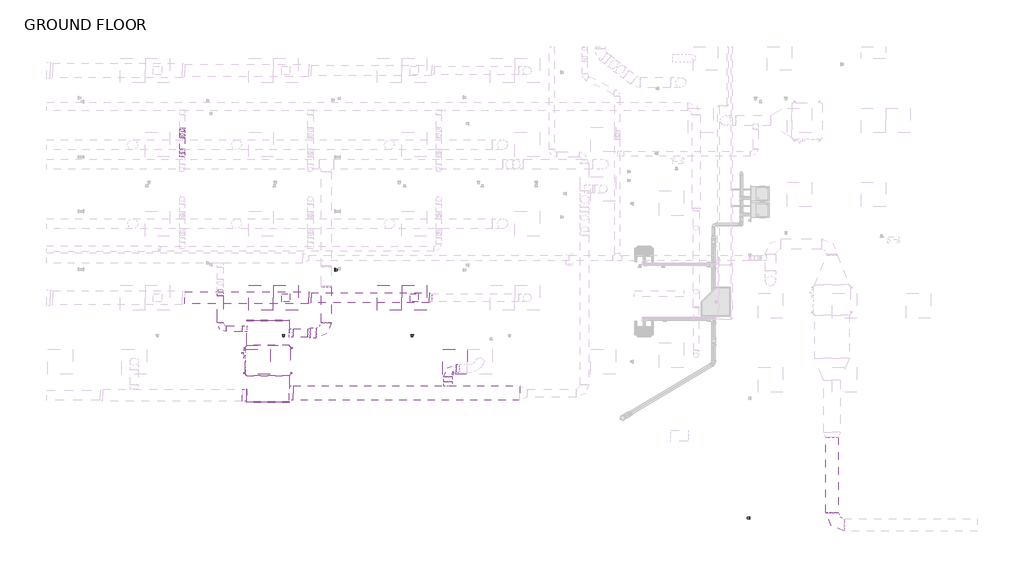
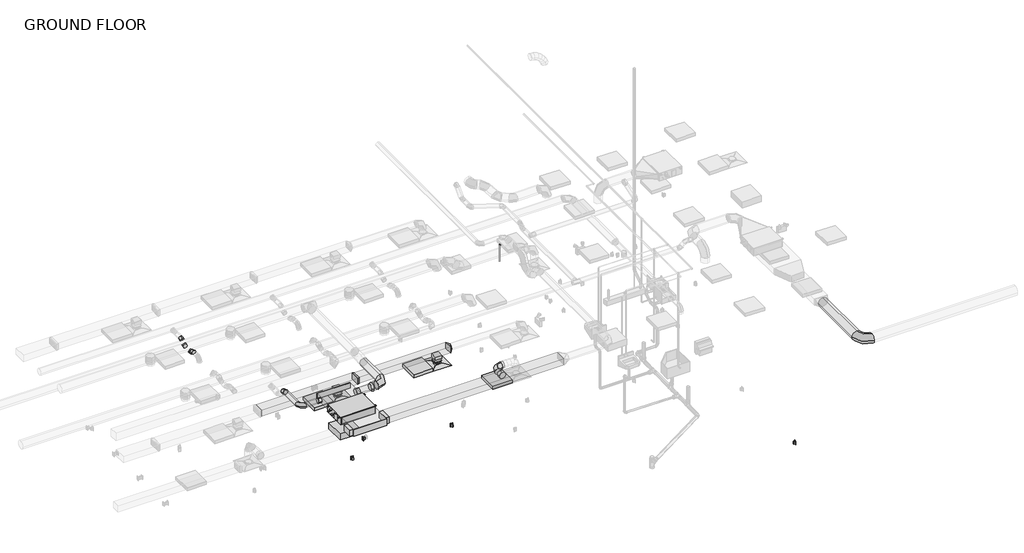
# One storey, part 4 of 22: 23 duct fittings, 17 duct segments, 4 light fixtures, 2 air terminals, 2 pipe segments, 2 proxies, 2 switching devices, 1 electric appliance, 1 pipe fitting.
"""IFC4 building model written with IfcOpenShell, lengths in millimetres."""

from ifc_helpers import new_model, si_unit, point, frame, frame_2d, origin, place, context, project, spatial, polyline, circle_curve, trimmed, segment, composite_curve, outline, extrude, transform, mapped, element, save
from components import air_terminal_e9020785, mechanical_equipment_d42a0ae8, duplex_receptacle_countertop_10251bba, rectangular_endcap_standard_76476d20, rectangular_endcap_standard_db7dad01, rectangular_takeoff_standard_806da19c, rectangular_takeoff_standard_78a7ba75, rectangular_takeoff_standard_d07ea574, rectangular_transition_angle_45_degree_1d311e81, rectangular_to_round_transition_angle_45_degree_e9430680, rectangular_to_round_transition_angle_45_degree_5a025447, round_elbow_1_d_a253342a, round_elbow_1_d_b37ad80b, round_elbow_1_d_6fec3262, round_elbow_1_d_281bc45b, round_elbow_1_d_9a27e954, round_elbow_1_d_538d8ec8, round_takeoff_standard_d3b0d0f9, round_takeoff_standard_1127d77f, round_takeoff_standard_bb6ed057, round_transition_angle_45_degree_6c335ea7, telephone_outlet_data_plain_18c24199, troffer_corner_insert_2x2_3_lamp_emergency_29e3a813, troffer_corner_insert_2x2_3lamp_e67c7f8f, elbow_generic_standard_a088f956

model = new_model("IFC4")

# Units and contexts
model_context = context("Model", 3, world=origin())
ifc_project = project(units=[si_unit("LENGTHUNIT", "METRE", prefix="MILLI")], contexts=[model_context])

# Site, building, storey
site = spatial("IfcSite", under=ifc_project)
building = spatial("IfcBuilding", under=site)
storey = spatial("IfcBuildingStorey", under=building, Name="GROUND FLOOR", Elevation=30480.0)

# Air terminals
placement = place(None, origin())
air_terminal_shape = air_terminal_e9020785(model_context)
element("IfcAirTerminal", 1, ObjectType="Supply Diffuser - Rectangular Face Round Neck - Hosted : 24\"x24\" Face 8\" Neck - Hosted", at=placement, inside=storey, context=model_context, shape_type="MappedRepresentation", body=[
    mapped(air_terminal_shape, transform((2372.6795393, -4228.1054995, 33223.2), x_axis=(0.0, -1.0, 0.0), y_axis=(-1.0, 0.0, 0.0), z_axis=(0.0, 0.0, -1.0))),
])
element("IfcAirTerminal", 2, ObjectType="Supply Diffuser - Rectangular Face Round Neck - Hosted : 24\"x24\" Face 8\" Neck - Hosted", at=placement, inside=storey, context=model_context, shape_type="MappedRepresentation", body=[
    mapped(air_terminal_shape, transform((5544.5045393, -4228.1054995, 33223.2), x_axis=(0.0, -1.0, 0.0), y_axis=(-1.0, 0.0, 0.0), z_axis=(0.0, 0.0, -1.0))),
])

# Proxies
mechanical_equipment_shape = mechanical_equipment_d42a0ae8(model_context)
element("IfcBuildingElementProxy", 3, Name="PEFY-P-NMAU-E_Medium_Static_Ducted : PEFY-P30NMAU-E", ObjectType="PEFY-P-NMAU-E_Medium_Static_Ducted : PEFY-P30NMAU-E", at=placement, inside=storey, context=model_context, shape_type="MappedRepresentation", body=[
    mapped(mechanical_equipment_shape, transform((1920.9522105, -5724.0600038, 33731.2), x_axis=(-1.0, 0.0, 0.0), y_axis=(0.0, -1.0, 0.0), z_axis=(0.0, 0.0, 1.0))),
])
duplex_receptacle_countertop_shape = duplex_receptacle_countertop_10251bba(model_context)
element("IfcBuildingElementProxy", 4, Name="Duplex Receptacle : Standard", ObjectType="Duplex Receptacle : Standard", at=placement, inside=storey, context=model_context, shape_type="MappedRepresentation", body=[
    mapped(duplex_receptacle_countertop_shape, transform((13828.0795393, -9667.2112489, 30937.2), x_axis=(0.0, 1.0, 0.0), y_axis=(0.0, 0.0, 1.0), z_axis=(1.0, 0.0, 0.0))),
])

# Duct fittings
rectangular_endcap_standard_shape = rectangular_endcap_standard_76476d20(model_context)
element("IfcDuctFitting", 5, ObjectType="Rectangular Endcap : Standard", at=placement, inside=storey, context=model_context, shape_type="MappedRepresentation", body=[
    mapped(rectangular_endcap_standard_shape, transform((1930.9644534, -4796.9600038, 33890.74375), x_axis=(0.0, 1.0, 0.0), y_axis=(-1.0, 0.0, 0.0), z_axis=(0.0, 0.0, 1.0))),
])
rectangular_endcap_standard_2_shape = rectangular_endcap_standard_db7dad01(model_context)
element("IfcDuctFitting", 6, ObjectType="Rectangular Endcap : Standard", at=placement, inside=storey, context=model_context, shape_type="MappedRepresentation", body=[
    mapped(rectangular_endcap_standard_2_shape, transform((1930.9644534, -6797.459162, 33877.25), x_axis=(0.0, -1.0, 0.0), y_axis=(0.0, 0.0, -1.0000000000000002), z_axis=(1.0000000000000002, 0.0, 0.0))),
])
rectangular_takeoff_standard_shape = rectangular_takeoff_standard_806da19c(model_context)
element("IfcDuctFitting", 7, ObjectType="Rectangular Takeoff : Standard", at=placement, inside=storey, context=model_context, shape_type="MappedRepresentation", body=[
    mapped(rectangular_takeoff_standard_shape, transform((2458.8082034, -6584.4850038, 33877.25), x_axis=(1.0, 0.0, 0.0), y_axis=(0.0, -1.0, 0.0), z_axis=(0.0, 0.0, -1.0))),
])
rectangular_takeoff_standard_2_shape = rectangular_takeoff_standard_78a7ba75(model_context)
element("IfcDuctFitting", 8, ObjectType="Rectangular Takeoff : Standard", at=placement, inside=storey, context=model_context, shape_type="MappedRepresentation", body=[
    mapped(rectangular_takeoff_standard_2_shape, transform((1403.1207034, -6635.2850038, 33877.25), x_axis=(-1.0, 0.0, 0.0), y_axis=(0.0, 1.0, 0.0), z_axis=(0.0, 0.0, -1.0))),
])
rectangular_takeoff_standard_3_shape = rectangular_takeoff_standard_d07ea574(model_context)
element("IfcDuctFitting", 9, ObjectType="Rectangular Takeoff : Standard", at=placement, inside=storey, context=model_context, shape_type="MappedRepresentation", body=[
    mapped(rectangular_takeoff_standard_3_shape, transform((5544.5045393, -4228.1054995, 33502.6), x_axis=(0.0, 0.0, -1.0), y_axis=(1.0, 0.0, 0.0), z_axis=(0.0, -1.0, 0.0))),
])
element("IfcDuctFitting", 10, ObjectType="Rectangular Takeoff : Standard", at=placement, inside=storey, context=model_context, shape_type="MappedRepresentation", body=[
    mapped(rectangular_takeoff_standard_3_shape, transform((2372.6795393, -4228.1054995, 33502.6), x_axis=(0.0, 0.0, -1.0), y_axis=(1.0, 0.0, 0.0), z_axis=(0.0, -1.0, 0.0))),
])
rectangular_transition_angle_45_degree_shape = rectangular_transition_angle_45_degree_1d311e81(model_context)
element("IfcDuctFitting", 11, ObjectType="Rectangular Transition - Angle : 45 Degree", at=placement, inside=storey, context=model_context, shape_type="MappedRepresentation", body=[
    mapped(rectangular_transition_angle_45_degree_shape, transform((2934.6545393, -4228.1054995, 33604.2), x_axis=(1.0, 0.0, 0.0), y_axis=(0.0, 1.0, 0.0), z_axis=(0.0, 0.0, 1.0))),
])
rectangular_to_round_transition_angle_45_degree_shape = rectangular_to_round_transition_angle_45_degree_e9430680(model_context)
element("IfcDuctFitting", 12, ObjectType="Rectangular to Round Transition - Angle : 45 Degree", at=placement, inside=storey, context=model_context, shape_type="MappedRepresentation", body=[
    mapped(rectangular_to_round_transition_angle_45_degree_shape, transform((5910.8124903, -4228.1054995, 33604.2), x_axis=(1.0, 0.0, 0.0), y_axis=(0.0, 1.0, 0.0), z_axis=(0.0, 0.0, 1.0))),
])
rectangular_to_round_transition_angle_45_degree_2_shape = rectangular_to_round_transition_angle_45_degree_5a025447(model_context)
element("IfcDuctFitting", 13, ObjectType="Rectangular to Round Transition - Angle : 45 Degree", at=placement, inside=storey, context=model_context, shape_type="MappedRepresentation", body=[
    mapped(rectangular_to_round_transition_angle_45_degree_2_shape, transform((5544.5045393, -4228.1054995, 33327.975), x_axis=(0.0, 0.0, -1.0), y_axis=(1.0, 0.0, 0.0), z_axis=(0.0, -1.0, 0.0))),
])
element("IfcDuctFitting", 14, ObjectType="Rectangular to Round Transition - Angle : 45 Degree", at=placement, inside=storey, context=model_context, shape_type="MappedRepresentation", body=[
    mapped(rectangular_to_round_transition_angle_45_degree_2_shape, transform((2372.6795393, -4228.1054995, 33327.975), x_axis=(0.0, 0.0, -1.0), y_axis=(1.0, 0.0, 0.0), z_axis=(0.0, -1.0, 0.0))),
])
round_elbow_1_d_shape = round_elbow_1_d_a253342a(model_context)
element("IfcDuctFitting", 15, ObjectType="Round Elbow : 1 D", at=placement, inside=storey, context=model_context, shape_type="MappedRepresentation", body=[
    mapped(round_elbow_1_d_shape, transform((6377.6154749, -5974.8850038, 33832.8), x_axis=(-1.0, 0.0, 0.0), y_axis=(0.0, -1.0, 0.0), z_axis=(0.0, 0.0, 1.0))),
])
round_elbow_1_d_2_shape = round_elbow_1_d_b37ad80b(model_context)
element("IfcDuctFitting", 16, ObjectType="Round Elbow : 1 D", at=placement, inside=storey, context=model_context, shape_type="MappedRepresentation", body=[
    mapped(round_elbow_1_d_2_shape, transform((752.8182219, -4998.2216457, 33890.74375), x_axis=(0.0, -1.0, 0.0), y_axis=(1.0, 0.0, 0.0), z_axis=(0.0, 0.0, 1.0))),
])
round_elbow_1_d_3_shape = round_elbow_1_d_6fec3262(model_context)
element("IfcDuctFitting", 17, ObjectType="Round Elbow : 1 D", at=placement, inside=storey, context=model_context, shape_type="MappedRepresentation", body=[
    mapped(round_elbow_1_d_3_shape, transform((3373.2082034, -5101.7600038, 33846.29375), x_axis=(1.0, 0.0, 0.0), y_axis=(0.0, 1.0, 0.0), z_axis=(0.0, 0.0, 1.0))),
])
round_elbow_1_d_4_shape = round_elbow_1_d_281bc45b(model_context)
element("IfcDuctFitting", 18, ObjectType="Round Elbow : 1 D", at=placement, inside=storey, context=model_context, shape_type="MappedRepresentation", body=[
    mapped(round_elbow_1_d_4_shape, transform((15866.7105962, -9838.464426, 33750.25), x_axis=(0.0, -1.0, 0.0), y_axis=(1.0, 0.0, 0.0), z_axis=(0.0, 0.0, 1.0))),
])
round_elbow_1_d_5_shape = round_elbow_1_d_9a27e954(model_context)
element("IfcDuctFitting", 19, ObjectType="Round Elbow : 1 D", at=placement, inside=storey, context=model_context, shape_type="MappedRepresentation", body=[
    mapped(round_elbow_1_d_5_shape, transform((752.8182219, -4118.4511555, 33890.74375), x_axis=(0.0, -0.707106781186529, 0.707106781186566), y_axis=(0.0, -0.707106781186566, -0.707106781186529), z_axis=(1.0, 0.0, 0.0))),
])
round_elbow_1_d_6_shape = round_elbow_1_d_538d8ec8(model_context)
element("IfcDuctFitting", 20, ObjectType="Round Elbow : 1 D", at=placement, inside=storey, context=model_context, shape_type="MappedRepresentation", body=[
    mapped(round_elbow_1_d_6_shape, transform((-189.5454607, -703.4357216, 33477.2), x_axis=(0.0, 1.0, 0.0), y_axis=(0.0, 0.0, -1.0), z_axis=(-1.0, 0.0, 0.0))),
])
element("IfcDuctFitting", 21, ObjectType="Round Elbow : 1 D", at=placement, inside=storey, context=model_context, shape_type="MappedRepresentation", body=[
    mapped(round_elbow_1_d_6_shape, transform((-189.5454607, -599.403412, 33404.3557926), x_axis=(0.0, 0.8191520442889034, -0.5735764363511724), y_axis=(0.0, 0.5735764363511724, 0.8191520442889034), z_axis=(1.0, 0.0, 0.0))),
])
element("IfcDuctFitting", 22, ObjectType="Round Elbow : 1 D", at=placement, inside=storey, context=model_context, shape_type="MappedRepresentation", body=[
    mapped(round_elbow_1_d_6_shape, transform((-189.5454607, -240.3054995, 33404.3557926), x_axis=(0.0, 1.0, 0.0), y_axis=(0.0, 0.0, 1.0), z_axis=(1.0, 0.0, 0.0))),
])
element("IfcDuctFitting", 23, ObjectType="Round Elbow : 1 D", at=placement, inside=storey, context=model_context, shape_type="MappedRepresentation", body=[
    mapped(round_elbow_1_d_6_shape, transform((-189.5454607, -63.7232711, 33528.0), x_axis=(0.0, 0.8191520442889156, 0.5735764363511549), y_axis=(0.0, 0.5735764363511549, -0.8191520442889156), z_axis=(-1.0, 0.0, 0.0))),
])
round_takeoff_standard_shape = round_takeoff_standard_d3b0d0f9(model_context)
element("IfcDuctFitting", 24, ObjectType="Round Takeoff : Standard", at=placement, inside=storey, context=model_context, shape_type="MappedRepresentation", body=[
    mapped(round_takeoff_standard_shape, transform((2458.8082034, -5101.7600038, 33846.29375), x_axis=(1.0, 0.0, 0.0), y_axis=(0.0, -1.0, 0.0), z_axis=(0.0, 0.0, -1.0))),
])
round_takeoff_standard_2_shape = round_takeoff_standard_1127d77f(model_context)
element("IfcDuctFitting", 25, ObjectType="Round Takeoff : Standard", at=placement, inside=storey, context=model_context, shape_type="MappedRepresentation", body=[
    mapped(round_takeoff_standard_2_shape, transform((6377.6154749, -6406.6850038, 33832.8), x_axis=(0.0, 1.0, 0.0), y_axis=(1.0, 0.0, 0.0), z_axis=(0.0, 0.0, -1.0))),
])
round_takeoff_standard_3_shape = round_takeoff_standard_bb6ed057(model_context)
element("IfcDuctFitting", 26, ObjectType="Round Takeoff : Standard", at=placement, inside=storey, context=model_context, shape_type="MappedRepresentation", body=[
    mapped(round_takeoff_standard_3_shape, transform((1403.1207034, -4998.2216457, 33890.74375), x_axis=(-1.0, 0.0, 0.0), y_axis=(0.0, 1.0, 0.0), z_axis=(0.0, 0.0, -1.0))),
])
round_transition_angle_45_degree_shape = round_transition_angle_45_degree_6c335ea7(model_context)
element("IfcDuctFitting", 27, ObjectType="Round Transition - Angle : 45 Degree", at=placement, inside=storey, context=model_context, shape_type="MappedRepresentation", body=[
    mapped(round_transition_angle_45_degree_shape, transform((2916.0082034, -5101.7600038, 33846.29375), x_axis=(1.0, 0.0, 0.0), y_axis=(0.0, 1.0, 0.0), z_axis=(0.0, 0.0, 1.0))),
])

# Duct segments
element("IfcDuctSegment", 28, ObjectType="Mitered Elbows / Taps", at=placement, inside=storey, context=model_context, shape_type="SweptSolid", body=[
    extrude(outline(polyline([(8148.4082034, -6406.6850038), (8148.4082034, -6762.2850038), (2560.4082034, -6762.2850038), (2560.4082034, -6406.6850038), (8148.4082034, -6406.6850038)])), frame((0.0, 0.0, 33775.65), z_axis=(0.0, 0.0, 1.0), x_axis=(1.0, 0.0, 0.0)), (0.0, 0.0, 1.0), 203.2),
])
element("IfcDuctSegment", 29, ObjectType="Mitered Elbows / Taps", at=placement, inside=storey, context=model_context, shape_type="SweptSolid", body=[
    extrude(outline(polyline([(-128.2244362, -4380.5054995), (-128.2244362, -4075.7054995), (2934.6545393, -4075.7054995), (2934.6545393, -4380.5054995), (-128.2244362, -4380.5054995)])), frame((0.0, 0.0, 33502.6), z_axis=(0.0, 0.0, 1.0), x_axis=(1.0, 0.0, 0.0)), (0.0, 0.0, 1.0), 203.2),
])
element("IfcDuctSegment", 30, ObjectType="Mitered Elbows / Taps", at=placement, inside=storey, context=model_context, shape_type="SweptSolid", body=[
    extrude(outline(polyline([(2995.9755638, -4355.1054995), (2995.9755638, -4101.1054995), (5910.8124903, -4101.1054995), (5910.8124903, -4355.1054995), (2995.9755638, -4355.1054995)])), frame((0.0, 0.0, 33502.6), z_axis=(0.0, 0.0, 1.0), x_axis=(1.0, 0.0, 0.0)), (0.0, 0.0, 1.0), 203.2),
])
element("IfcDuctSegment", 31, ObjectType="Mitered Elbows / Taps", at=placement, inside=storey, context=model_context, shape_type="SweptSolid", body=[
    extrude(outline(polyline([(5442.9045393, -4126.5054995), (5646.1045393, -4126.5054995), (5646.1045393, -4329.7054995), (5442.9045393, -4329.7054995), (5442.9045393, -4126.5054995)])), frame((0.0, 0.0, 33327.975), z_axis=(0.0, 0.0, 1.0), x_axis=(1.0, 0.0, 0.0)), (0.0, 0.0, 1.0), 73.025),
])
element("IfcDuctSegment", 32, ObjectType="Mitered Elbows / Taps", at=placement, inside=storey, context=model_context, shape_type="SweptSolid", body=[
    extrude(outline(polyline([(2271.0795393, -4126.5054995), (2474.2795393, -4126.5054995), (2474.2795393, -4329.7054995), (2271.0795393, -4329.7054995), (2271.0795393, -4126.5054995)])), frame((0.0, 0.0, 33327.975), z_axis=(0.0, 0.0, 1.0), x_axis=(1.0, 0.0, 0.0)), (0.0, 0.0, 1.0), 73.025),
])
element("IfcDuctSegment", 33, ObjectType="Mitered Elbows / Tees", at=placement, inside=storey, context=model_context, shape_type="SweptSolid", body=[
    extrude(outline(polyline([(2458.8082034, -5406.5600038), (1403.1207034, -5406.5600038), (1403.1207034, -4796.9600038), (2458.8082034, -4796.9600038), (2458.8082034, -5406.5600038)])), frame((0.0, 0.0, 33801.05), z_axis=(0.0, 0.0, 1.0), x_axis=(1.0, 0.0, 0.0)), (0.0, 0.0, 1.0), 179.3875),
])
element("IfcDuctSegment", 34, ObjectType="Mitered Elbows / Tees", at=placement, inside=storey, context=model_context, shape_type="SweptSolid", body=[
    extrude(outline(polyline([(1403.1207034, -6152.6850038), (2458.8082034, -6152.6850038), (2458.8082034, -6797.459162), (1403.1207034, -6797.459162), (1403.1207034, -6152.6850038)])), frame((0.0, 0.0, 33774.0625), z_axis=(0.0, 0.0, 1.0), x_axis=(1.0, 0.0, 0.0)), (0.0, 0.0, 1.0), 206.375),
])
element("IfcDuctSegment", 35, ObjectType="Taps / Short Radius", at=placement, inside=storey, context=model_context, shape_type="SweptSolid", body=[
    extrude(outline(composite_curve([segment(trimmed(circle_curve(frame_2d((33832.8, 6377.6154749)), 101.6), [point((33832.8, 6479.2154749))], [point((33934.4, 6377.6154749))], False, "CARTESIAN"), True, "CONTINUOUS"), segment(trimmed(circle_curve(frame_2d((33832.8, 6377.6154749)), 101.6), [point((33934.4, 6377.6154749))], [point((33832.8, 6276.0154749))], False, "CARTESIAN"), True, "CONTINUOUS"), segment(trimmed(circle_curve(frame_2d((33832.8, 6377.6154749)), 101.6), [point((33832.8, 6276.0154749))], [point((33731.2, 6377.6154749))], False, "CARTESIAN"), True, "CONTINUOUS"), segment(trimmed(circle_curve(frame_2d((33832.8, 6377.6154749)), 101.6), [point((33731.2, 6377.6154749))], [point((33832.8, 6479.2154749))], False, "CARTESIAN"), True, "CONTINUOUS")], self_intersect=False)), frame((0.0, -6305.0850038, 0.0), z_axis=(0.0, 1.0, 0.0), x_axis=(0.0, 0.0, 1.0)), (0.0, 0.0, 1.0), 127.0),
])
element("IfcDuctSegment", 36, ObjectType="Taps / Short Radius", at=placement, inside=storey, context=model_context, shape_type="SweptSolid", body=[
    extrude(outline(composite_curve([segment(trimmed(circle_curve(frame_2d((-5974.8850038, 33832.8)), 101.6), [point((-6076.4850038, 33832.8))], [point((-5974.8850038, 33934.4))], False, "CARTESIAN"), True, "CONTINUOUS"), segment(trimmed(circle_curve(frame_2d((-5974.8850038, 33832.8)), 101.6), [point((-5974.8850038, 33934.4))], [point((-5873.2850038, 33832.8))], False, "CARTESIAN"), True, "CONTINUOUS"), segment(trimmed(circle_curve(frame_2d((-5974.8850038, 33832.8)), 101.6), [point((-5873.2850038, 33832.8))], [point((-5974.8850038, 33731.2))], False, "CARTESIAN"), True, "CONTINUOUS"), segment(trimmed(circle_curve(frame_2d((-5974.8850038, 33832.8)), 101.6), [point((-5974.8850038, 33731.2))], [point((-6076.4850038, 33832.8))], False, "CARTESIAN"), True, "CONTINUOUS")], self_intersect=False)), frame((6580.8154749, 0.0, 0.0), z_axis=(1.0, 0.0, 0.0), x_axis=(0.0, 1.0, 0.0)), (0.0, 0.0, 1.0), 76.2),
])
element("IfcDuctSegment", 37, ObjectType="Taps / Short Radius", at=placement, inside=storey, context=model_context, shape_type="SweptSolid", body=[
    extrude(outline(composite_curve([segment(trimmed(circle_curve(frame_2d((33750.25, 15866.7105962)), 152.4), [point((33750.25, 15714.3105962))], [point((33597.85, 15866.7105962))], False, "CARTESIAN"), True, "CONTINUOUS"), segment(trimmed(circle_curve(frame_2d((33750.25, 15866.7105962)), 152.4), [point((33597.85, 15866.7105962))], [point((33750.25, 16019.1105962))], False, "CARTESIAN"), True, "CONTINUOUS"), segment(trimmed(circle_curve(frame_2d((33750.25, 15866.7105962)), 152.4), [point((33750.25, 16019.1105962))], [point((33902.65, 15866.7105962))], False, "CARTESIAN"), True, "CONTINUOUS"), segment(trimmed(circle_curve(frame_2d((33750.25, 15866.7105962)), 152.4), [point((33902.65, 15866.7105962))], [point((33750.25, 15714.3105962))], False, "CARTESIAN"), True, "CONTINUOUS")], self_intersect=False)), frame((0.0, -9533.664426, 0.0), z_axis=(0.0, 1.0, 0.0), x_axis=(0.0, 0.0, 1.0)), (0.0, 0.0, 1.0), 1858.557951),
])
element("IfcDuctSegment", 38, ObjectType="Taps / Short Radius", at=placement, inside=storey, context=model_context, shape_type="SweptSolid", body=[
    extrude(outline(composite_curve([segment(trimmed(circle_curve(frame_2d((-5101.7600038, 33846.29375)), 101.6), [point((-5203.3600038, 33846.29375))], [point((-5101.7600038, 33947.89375))], False, "CARTESIAN"), True, "CONTINUOUS"), segment(trimmed(circle_curve(frame_2d((-5101.7600038, 33846.29375)), 101.6), [point((-5101.7600038, 33947.89375))], [point((-5000.1600038, 33846.29375))], False, "CARTESIAN"), True, "CONTINUOUS"), segment(trimmed(circle_curve(frame_2d((-5101.7600038, 33846.29375)), 101.6), [point((-5000.1600038, 33846.29375))], [point((-5101.7600038, 33744.69375))], False, "CARTESIAN"), True, "CONTINUOUS"), segment(trimmed(circle_curve(frame_2d((-5101.7600038, 33846.29375)), 101.6), [point((-5101.7600038, 33744.69375))], [point((-5203.3600038, 33846.29375))], False, "CARTESIAN"), True, "CONTINUOUS")], self_intersect=False)), frame((2560.4082034, 0.0, 0.0), z_axis=(1.0, 0.0, 0.0), x_axis=(0.0, 1.0, 0.0)), (0.0, 0.0, 1.0), 355.6),
])
element("IfcDuctSegment", 39, ObjectType="Taps / Short Radius", at=placement, inside=storey, context=model_context, shape_type="SweptSolid", body=[
    extrude(outline(composite_curve([segment(trimmed(circle_curve(frame_2d((-5101.7600038, 33846.29375)), 127.0), [point((-5228.7600038, 33846.29375))], [point((-5101.7600038, 33973.29375))], False, "CARTESIAN"), True, "CONTINUOUS"), segment(trimmed(circle_curve(frame_2d((-5101.7600038, 33846.29375)), 127.0), [point((-5101.7600038, 33973.29375))], [point((-4974.7600038, 33846.29375))], False, "CARTESIAN"), True, "CONTINUOUS"), segment(trimmed(circle_curve(frame_2d((-5101.7600038, 33846.29375)), 127.0), [point((-4974.7600038, 33846.29375))], [point((-5101.7600038, 33719.29375))], False, "CARTESIAN"), True, "CONTINUOUS"), segment(trimmed(circle_curve(frame_2d((-5101.7600038, 33846.29375)), 127.0), [point((-5101.7600038, 33719.29375))], [point((-5228.7600038, 33846.29375))], False, "CARTESIAN"), True, "CONTINUOUS")], self_intersect=False)), frame((2977.3292279, 0.0, 0.0), z_axis=(1.0, 0.0, 0.0), x_axis=(0.0, 1.0, 0.0)), (0.0, 0.0, 1.0), 141.8789755),
])
element("IfcDuctSegment", 40, ObjectType="Taps / Short Radius", at=placement, inside=storey, context=model_context, shape_type="SweptSolid", body=[
    extrude(outline(composite_curve([segment(trimmed(circle_curve(frame_2d((33846.29375, 3373.2082034)), 127.0), [point((33846.29375, 3500.2082034))], [point((33973.29375, 3373.2082034))], False, "CARTESIAN"), True, "CONTINUOUS"), segment(trimmed(circle_curve(frame_2d((33846.29375, 3373.2082034)), 127.0), [point((33973.29375, 3373.2082034))], [point((33846.29375, 3246.2082034))], False, "CARTESIAN"), True, "CONTINUOUS"), segment(trimmed(circle_curve(frame_2d((33846.29375, 3373.2082034)), 127.0), [point((33846.29375, 3246.2082034))], [point((33719.29375, 3373.2082034))], False, "CARTESIAN"), True, "CONTINUOUS"), segment(trimmed(circle_curve(frame_2d((33846.29375, 3373.2082034)), 127.0), [point((33719.29375, 3373.2082034))], [point((33846.29375, 3500.2082034))], False, "CARTESIAN"), True, "CONTINUOUS")], self_intersect=False)), frame((0.0, -4847.7600038, 0.0), z_axis=(0.0, 1.0, 0.0), x_axis=(0.0, 0.0, 1.0)), (0.0, 0.0, 1.0), 894.6785339),
])
element("IfcDuctSegment", 41, ObjectType="Taps / Short Radius", at=placement, inside=storey, context=model_context, shape_type="SweptSolid", body=[
    extrude(outline(composite_curve([segment(trimmed(circle_curve(frame_2d((33890.74375, 752.8182219)), 76.2), [point((33890.74375, 676.6182219))], [point((33814.54375, 752.8182219))], False, "CARTESIAN"), True, "CONTINUOUS"), segment(trimmed(circle_curve(frame_2d((33890.74375, 752.8182219)), 76.2), [point((33814.54375, 752.8182219))], [point((33890.74375, 829.0182219))], False, "CARTESIAN"), True, "CONTINUOUS"), segment(trimmed(circle_curve(frame_2d((33890.74375, 752.8182219)), 76.2), [point((33890.74375, 829.0182219))], [point((33966.94375, 752.8182219))], False, "CARTESIAN"), True, "CONTINUOUS"), segment(trimmed(circle_curve(frame_2d((33890.74375, 752.8182219)), 76.2), [point((33966.94375, 752.8182219))], [point((33890.74375, 676.6182219))], False, "CARTESIAN"), True, "CONTINUOUS")], self_intersect=False)), frame((0.0, -4845.8216457, 0.0), z_axis=(0.0, 1.0, 0.0), x_axis=(0.0, 0.0, 1.0)), (0.0, 0.0, 1.0), 664.2443434),
])
element("IfcDuctSegment", 42, ObjectType="Taps / Short Radius", at=placement, inside=storey, context=model_context, shape_type="SweptSolid", body=[
    extrude(outline(composite_curve([segment(trimmed(circle_curve(frame_2d((-4998.2216457, 33890.74375)), 76.2), [point((-4922.0216457, 33890.74375))], [point((-4998.2216457, 33814.54375))], False, "CARTESIAN"), True, "CONTINUOUS"), segment(trimmed(circle_curve(frame_2d((-4998.2216457, 33890.74375)), 76.2), [point((-4998.2216457, 33814.54375))], [point((-5074.4216457, 33890.74375))], False, "CARTESIAN"), True, "CONTINUOUS"), segment(trimmed(circle_curve(frame_2d((-4998.2216457, 33890.74375)), 76.2), [point((-5074.4216457, 33890.74375))], [point((-4998.2216457, 33966.94375))], False, "CARTESIAN"), True, "CONTINUOUS"), segment(trimmed(circle_curve(frame_2d((-4998.2216457, 33890.74375)), 76.2), [point((-4998.2216457, 33966.94375))], [point((-4922.0216457, 33890.74375))], False, "CARTESIAN"), True, "CONTINUOUS")], self_intersect=False)), frame((905.2182219, 0.0, 0.0), z_axis=(1.0, 0.0, 0.0), x_axis=(0.0, 1.0, 0.0)), (0.0, 0.0, 1.0), 396.3024816),
])
element("IfcDuctSegment", 43, ObjectType="Taps / Short Radius", at=placement, inside=storey, context=model_context, shape_type="SweptSolid", body=[
    extrude(outline(composite_curve([segment(trimmed(circle_curve(frame_2d((33404.3557926, -189.5454607)), 63.5), [point((33404.3557926, -126.0454607))], [point((33467.8557926, -189.5454607))], False, "CARTESIAN"), True, "CONTINUOUS"), segment(trimmed(circle_curve(frame_2d((33404.3557926, -189.5454607)), 63.5), [point((33467.8557926, -189.5454607))], [point((33404.3557926, -253.0454607))], False, "CARTESIAN"), True, "CONTINUOUS"), segment(trimmed(circle_curve(frame_2d((33404.3557926, -189.5454607)), 63.5), [point((33404.3557926, -253.0454607))], [point((33340.8557926, -189.5454607))], False, "CARTESIAN"), True, "CONTINUOUS"), segment(trimmed(circle_curve(frame_2d((33404.3557926, -189.5454607)), 63.5), [point((33340.8557926, -189.5454607))], [point((33404.3557926, -126.0454607))], False, "CARTESIAN"), True, "CONTINUOUS")], self_intersect=False)), frame((0.0, -559.3604658, 0.0), z_axis=(0.0, 1.0, 0.0), x_axis=(0.0, 0.0, 1.0)), (0.0, 0.0, 1.0), 279.0120202),
])
element("IfcDuctSegment", 44, ObjectType="Taps / Short Radius", at=placement, inside=storey, context=model_context, shape_type="SweptSolid", body=[
    extrude(outline(composite_curve([segment(trimmed(circle_curve(frame_2d((0.0, 63.5)), 63.5), [point((63.5, 63.5))], [point((0.0, 0.0))], False, "CARTESIAN"), True, "CONTINUOUS"), segment(trimmed(circle_curve(frame_2d((0.0, 63.5)), 63.5), [point((0.0, 0.0))], [point((-63.5, 63.5))], False, "CARTESIAN"), True, "CONTINUOUS"), segment(trimmed(circle_curve(frame_2d((0.0, 63.5)), 63.5), [point((-63.5, 63.5))], [point((0.0, 127.0000001))], False, "CARTESIAN"), True, "CONTINUOUS"), segment(trimmed(circle_curve(frame_2d((0.0, 63.5)), 63.5), [point((0.0, 127.0000001))], [point((63.5, 63.5))], False, "CARTESIAN"), True, "CONTINUOUS")], self_intersect=False)), frame((-189.5454607, -243.926342, 33479.3396378), z_axis=(0.0, 0.8191520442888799, 0.5735764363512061), x_axis=(1.0, 0.0, 0.0)), (0.0, 0.0, 1.0), 135.4812048),
])

# Electric appliance
telephone_outlet_data_plain_shape = telephone_outlet_data_plain_18c24199(model_context)
element("IfcElectricAppliance", 45, ObjectType="Telephone Outlet - Data : Plain", at=placement, inside=storey, context=model_context, shape_type="MappedRepresentation", body=[
    mapped(telephone_outlet_data_plain_shape, transform((3591.8795393, -4418.2328608, 30079.95), x_axis=(0.0, -1.0, 0.0), y_axis=(0.0, 0.0, 1.0), z_axis=(-1.0, 0.0, 0.0))),
])

# Light fixtures
troffer_corner_insert_2x2_3_lamp_emergency_shape = troffer_corner_insert_2x2_3_lamp_emergency_29e3a813(model_context)
element("IfcLightFixture", 46, ObjectType="Troffer Corner Insert : 2x2 3 Lamp Emergency", at=placement, inside=storey, context=model_context, shape_type="MappedRepresentation", body=[
    mapped(troffer_corner_insert_2x2_3_lamp_emergency_shape, transform((1677.3545393, -5809.2554995, 30784.8), x_axis=(1.0, 0.0, 0.0), y_axis=(0.0, 1.0, 0.0), z_axis=(0.0, 0.0, 1.0))),
])
troffer_corner_insert_2x2_3lamp_shape = troffer_corner_insert_2x2_3lamp_e67c7f8f(model_context)
element("IfcLightFixture", 47, ObjectType="Troffer Corner Insert : 2x2 3Lamp", at=placement, inside=storey, context=model_context, shape_type="MappedRepresentation", body=[
    mapped(troffer_corner_insert_2x2_3lamp_shape, transform((1763.0795393, -4228.1054995, 30784.8), x_axis=(1.0, 0.0, 0.0), y_axis=(0.0, 1.0, 0.0), z_axis=(0.0, 0.0, 1.0))),
])
element("IfcLightFixture", 48, ObjectType="Troffer Corner Insert : 2x2 3Lamp", at=placement, inside=storey, context=model_context, shape_type="MappedRepresentation", body=[
    mapped(troffer_corner_insert_2x2_3lamp_shape, transform((4934.9045393, -4228.1054995, 30784.8), x_axis=(1.0, 0.0, 0.0), y_axis=(0.0, 1.0, 0.0), z_axis=(0.0, 0.0, 1.0))),
])
element("IfcLightFixture", 49, ObjectType="Troffer Corner Insert : 2x2 3Lamp", at=placement, inside=storey, context=model_context, shape_type="MappedRepresentation", body=[
    mapped(troffer_corner_insert_2x2_3lamp_shape, transform((6554.1545393, -5809.2554995, 30784.8), x_axis=(1.0, 0.0, 0.0), y_axis=(0.0, 1.0, 0.0), z_axis=(0.0, 0.0, 1.0))),
])

# Pipe fitting
elbow_generic_standard_shape = elbow_generic_standard_a088f956(model_context)
element("IfcPipeFitting", 50, ObjectType="Elbow - Generic : Standard", at=placement, inside=storey, context=model_context, shape_type="MappedRepresentation", body=[
    mapped(elbow_generic_standard_shape, transform((6497.3220393, -6058.4929995, 37998.4), x_axis=(0.0, 0.0, 1.0), y_axis=(0.0, -1.0, 0.0), z_axis=(1.0, 0.0, 0.0))),
])

# Pipe segments
element("IfcPipeSegment", 51, ObjectType="Copper Tubing", at=placement, inside=storey, context=model_context, shape_type="SweptSolid", body=[
    extrude(outline(composite_curve([segment(trimmed(circle_curve(frame_2d((37998.4, 6497.3220393)), 7.9375), [point((37998.4, 6505.2595393))], [point((38006.3375, 6497.3220393))], False, "CARTESIAN"), True, "CONTINUOUS"), segment(trimmed(circle_curve(frame_2d((37998.4, 6497.3220393)), 7.9375), [point((38006.3375, 6497.3220393))], [point((37998.4, 6489.3845393))], False, "CARTESIAN"), True, "CONTINUOUS"), segment(trimmed(circle_curve(frame_2d((37998.4, 6497.3220393)), 7.9375), [point((37998.4, 6489.3845393))], [point((37990.4625, 6497.3220393))], False, "CARTESIAN"), True, "CONTINUOUS"), segment(trimmed(circle_curve(frame_2d((37998.4, 6497.3220393)), 7.9375), [point((37990.4625, 6497.3220393))], [point((37998.4, 6505.2595393))], False, "CARTESIAN"), True, "CONTINUOUS")], self_intersect=False)), frame((0.0, -6120.4054995, 0.0), z_axis=(0.0, 1.0, 0.0), x_axis=(0.0, 0.0, 1.0)), (0.0, 0.0, 1.0), 47.625),
])
element("IfcPipeSegment", 52, ObjectType="Copper Tubing", at=placement, inside=storey, context=model_context, shape_type="SweptSolid", body=[
    extrude(outline(composite_curve([segment(trimmed(circle_curve(frame_2d((6497.3220393, -6058.4929995)), 7.9375), [point((6489.3845393, -6058.4929995))], [point((6497.3220393, -6050.5554995))], False, "CARTESIAN"), True, "CONTINUOUS"), segment(trimmed(circle_curve(frame_2d((6497.3220393, -6058.4929995)), 7.9375), [point((6497.3220393, -6050.5554995))], [point((6505.2595393, -6058.4929995))], False, "CARTESIAN"), True, "CONTINUOUS"), segment(trimmed(circle_curve(frame_2d((6497.3220393, -6058.4929995)), 7.9375), [point((6505.2595393, -6058.4929995))], [point((6497.3220393, -6066.4304995))], False, "CARTESIAN"), True, "CONTINUOUS"), segment(trimmed(circle_curve(frame_2d((6497.3220393, -6058.4929995)), 7.9375), [point((6497.3220393, -6066.4304995))], [point((6489.3845393, -6058.4929995))], False, "CARTESIAN"), True, "CONTINUOUS")], self_intersect=False)), frame((0.0, 0.0, 37422.1375102), z_axis=(0.0, 0.0, 1.0), x_axis=(1.0, 0.0, 0.0)), (0.0, 0.0, 1.0), 561.9749898),
])

# Switching devices
element("IfcSwitchingDevice", 53, ObjectType="Lighting Switches - Occupancy Sensor : Occupancy Sensor", at=placement, inside=storey, context=model_context, shape_type="MappedRepresentation", body=[
    mapped(duplex_receptacle_countertop_shape, transform((5493.5296811, -5142.5054995, 31699.2), x_axis=(-1.0, 0.0, 0.0), y_axis=(0.0, 0.0, 1.0), z_axis=(0.0, 1.0, 0.0))),
])
element("IfcSwitchingDevice", 54, ObjectType="Lighting Switches - Occupancy Sensor : Occupancy Sensor", at=placement, inside=storey, context=model_context, shape_type="MappedRepresentation", body=[
    mapped(duplex_receptacle_countertop_shape, transform((2316.5516148, -5142.5054995, 31699.2), x_axis=(-1.0, 0.0, 0.0), y_axis=(0.0, 0.0, 1.0), z_axis=(0.0, 1.0, 0.0))),
])

save(model, "model.ifc")
